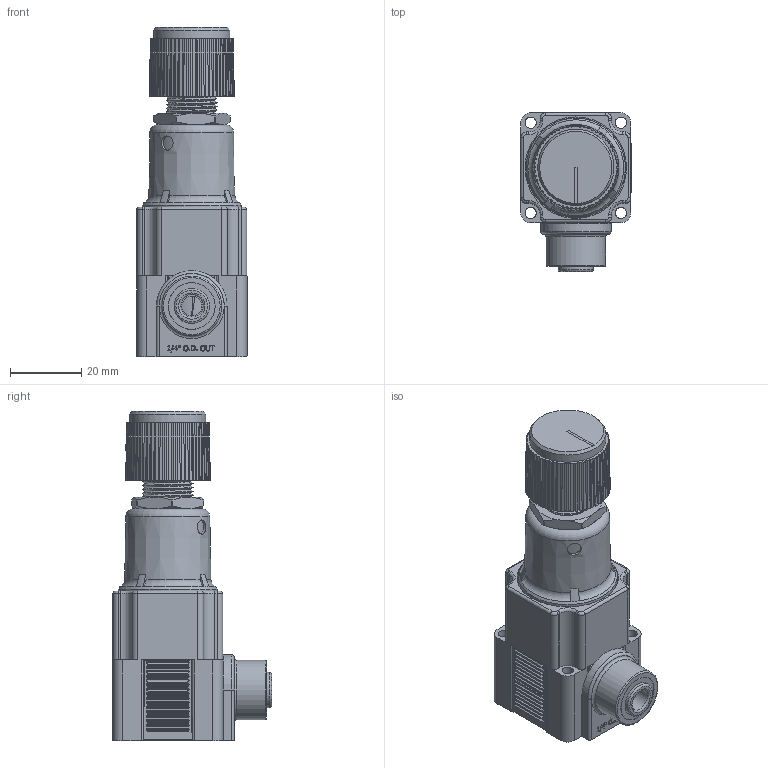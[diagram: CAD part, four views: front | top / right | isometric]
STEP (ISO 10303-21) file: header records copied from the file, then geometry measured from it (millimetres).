
FILE_DESCRIPTION(/* description */ (''),/* implementation_level */ '2;1');
FILE_NAME(/* name */ 'K:\Normteile INVENTOR\Air-Logic\Regulators\NR4000\NR 4___ 5 Push-In Fittings for 1''4 O.D. Tube Out.igs.ipt.stp',/* time_stamp */ '2020-05-27T10:50:59+02:00',/* author */ ('Paul'),/* organization */ (''),/* preprocessor_version */ 'ST-DEVELOPER v18',/* originating_system */ 'Autodesk Inventor 2020',/* authorisation */ '');
FILE_SCHEMA (('AUTOMOTIVE_DESIGN { 1 0 10303 214 3 1 1 }'));
Length unit declared in the file: inch
Products named in the file (1): NR 4___ 5 Push-In Fittings for 1'4 O.D. Tube Out.igs
Bounding box: 31.06 x 44.8 x 92.65 mm (x, y, z)
Volume: 57769.6 mm3; surface area: 20098.4 mm2
Topology: 1 solids, 1 shells, 1031 faces, 2648 edges, 1697 vertices
Faces by surface type: plane 522, cylinder 333, cone 82, bspline 68, torus 26
Full cylindrical faces by diameter (mm): 3.175 x4, 3.988 x1, 4.039 x1, 4.064 x1, 5.639 x1, 6.35 x1, 9.169 x1, 9.398 x1, 9.906 x1, 12.903 x1, 13.132 x1, 13.144 x1, 14.288 x2, 16.764 x1, 19.406 x1, 21.476 x1, 26.264 x1, 27.94 x1, 28.575 x1
Entity records: 40395 total; most frequent: CARTESIAN_POINT 13962, DIRECTION 5361, ORIENTED_EDGE 5296, EDGE_CURVE 2648, AXIS2_PLACEMENT_3D 2004, VERTEX_POINT 1697, LINE 1353, VECTOR 1353
